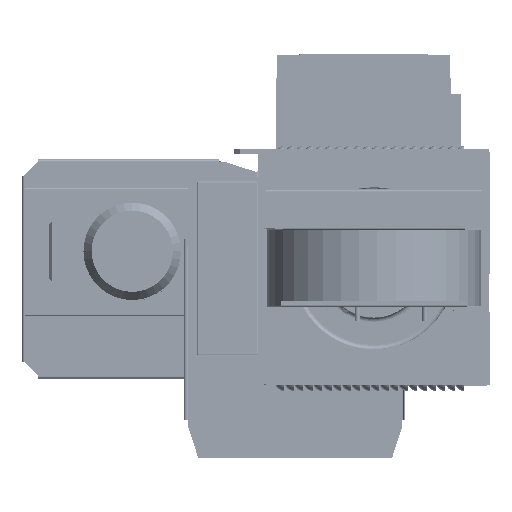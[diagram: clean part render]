
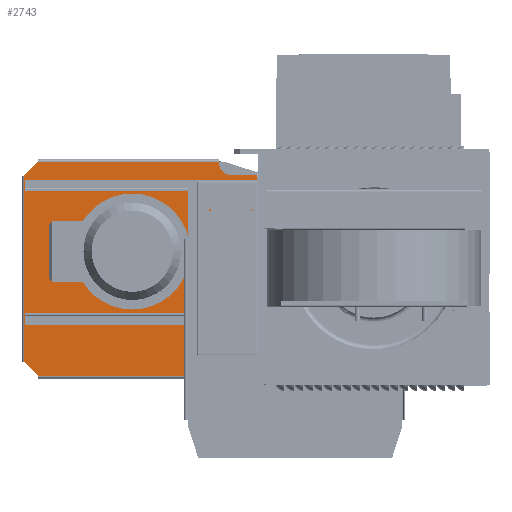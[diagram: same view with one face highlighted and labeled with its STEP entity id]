
A CAD part, top view. The second image highlights one B-rep face of the part: STEP entity #2743.
In plain terms, the highlighted planar face has unit normal (0, 0, 1).
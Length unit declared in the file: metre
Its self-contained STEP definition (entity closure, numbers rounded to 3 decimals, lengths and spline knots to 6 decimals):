
#2743 = ADVANCED_FACE( '', ( #5080, #5081, #5082, #5083, #5084, #5085 ), #5086, .F. );
#5080 = FACE_BOUND( '', #9238, .T. );
#5081 = FACE_BOUND( '', #9239, .T. );
#5082 = FACE_BOUND( '', #9240, .T. );
#5083 = FACE_BOUND( '', #9241, .T. );
#5084 = FACE_BOUND( '', #9242, .T. );
#5085 = FACE_OUTER_BOUND( '', #9243, .T. );
#5086 = PLANE( '', #9244 );
#9238 = EDGE_LOOP( '', ( #15480 ) );
#9239 = EDGE_LOOP( '', ( #15481 ) );
#9240 = EDGE_LOOP( '', ( #15482 ) );
#9241 = EDGE_LOOP( '', ( #15483 ) );
#9242 = EDGE_LOOP( '', ( #15484 ) );
#9243 = EDGE_LOOP( '', ( #15485, #15486, #15487, #15488, #15489, #15490, #15491, #15492, #15493, #15494, #15495, #15496 ) );
#9244 = AXIS2_PLACEMENT_3D( '', #15497, #15498, #15499 );
#15480 = ORIENTED_EDGE( '', *, *, #25044, .F. );
#15481 = ORIENTED_EDGE( '', *, *, #25045, .T. );
#15482 = ORIENTED_EDGE( '', *, *, #25046, .T. );
#15483 = ORIENTED_EDGE( '', *, *, #25047, .F. );
#15484 = ORIENTED_EDGE( '', *, *, #25048, .F. );
#15485 = ORIENTED_EDGE( '', *, *, #25049, .T. );
#15486 = ORIENTED_EDGE( '', *, *, #25050, .T. );
#15487 = ORIENTED_EDGE( '', *, *, #25051, .T. );
#15488 = ORIENTED_EDGE( '', *, *, #25052, .T. );
#15489 = ORIENTED_EDGE( '', *, *, #25053, .T. );
#15490 = ORIENTED_EDGE( '', *, *, #25054, .T. );
#15491 = ORIENTED_EDGE( '', *, *, #25055, .T. );
#15492 = ORIENTED_EDGE( '', *, *, #25056, .T. );
#15493 = ORIENTED_EDGE( '', *, *, #25057, .T. );
#15494 = ORIENTED_EDGE( '', *, *, #25058, .T. );
#15495 = ORIENTED_EDGE( '', *, *, #25059, .T. );
#15496 = ORIENTED_EDGE( '', *, *, #25060, .T. );
#15497 = CARTESIAN_POINT( '', ( -0.417025, 0.074178, 0.002 ) );
#15498 = DIRECTION( '', ( 0., 0., -1. ) );
#15499 = DIRECTION( '', ( -1., 0., 0. ) );
#25044 = EDGE_CURVE( '', #29506, #29506, #29507, .F. );
#25045 = EDGE_CURVE( '', #29508, #29508, #29509, .T. );
#25046 = EDGE_CURVE( '', #29510, #29510, #29511, .T. );
#25047 = EDGE_CURVE( '', #29512, #29512, #29513, .F. );
#25048 = EDGE_CURVE( '', #29514, #29514, #29515, .F. );
#25049 = EDGE_CURVE( '', #29516, #29517, #29518, .T. );
#25050 = EDGE_CURVE( '', #29517, #29519, #29520, .T. );
#25051 = EDGE_CURVE( '', #29519, #29521, #29522, .T. );
#25052 = EDGE_CURVE( '', #29521, #29523, #29524, .T. );
#25053 = EDGE_CURVE( '', #29523, #29525, #29526, .T. );
#25054 = EDGE_CURVE( '', #29525, #29527, #29528, .T. );
#25055 = EDGE_CURVE( '', #29527, #29529, #29530, .T. );
#25056 = EDGE_CURVE( '', #29529, #29531, #29532, .T. );
#25057 = EDGE_CURVE( '', #29531, #29533, #29534, .T. );
#25058 = EDGE_CURVE( '', #29533, #29535, #29536, .T. );
#25059 = EDGE_CURVE( '', #29535, #29537, #29538, .T. );
#25060 = EDGE_CURVE( '', #29537, #29516, #29539, .T. );
#29506 = VERTEX_POINT( '', #36065 );
#29507 = CIRCLE( '', #36066, 0.005 );
#29508 = VERTEX_POINT( '', #36067 );
#29509 = CIRCLE( '', #36068, 0.005 );
#29510 = VERTEX_POINT( '', #36069 );
#29511 = CIRCLE( '', #36070, 0.06525 );
#29512 = VERTEX_POINT( '', #36071 );
#29513 = CIRCLE( '', #36072, 0.005 );
#29514 = VERTEX_POINT( '', #36073 );
#29515 = CIRCLE( '', #36074, 0.005 );
#29516 = VERTEX_POINT( '', #36075 );
#29517 = VERTEX_POINT( '', #36076 );
#29518 = LINE( '', #36077, #36078 );
#29519 = VERTEX_POINT( '', #36079 );
#29520 = CIRCLE( '', #36080, 0.02 );
#29521 = VERTEX_POINT( '', #36081 );
#29522 = LINE( '', #36082, #36083 );
#29523 = VERTEX_POINT( '', #36084 );
#29524 = LINE( '', #36085, #36086 );
#29525 = VERTEX_POINT( '', #36087 );
#29526 = LINE( '', #36088, #36089 );
#29527 = VERTEX_POINT( '', #36090 );
#29528 = LINE( '', #36091, #36092 );
#29529 = VERTEX_POINT( '', #36093 );
#29530 = LINE( '', #36094, #36095 );
#29531 = VERTEX_POINT( '', #36096 );
#29532 = LINE( '', #36097, #36098 );
#29533 = VERTEX_POINT( '', #36099 );
#29534 = LINE( '', #36100, #36101 );
#29535 = VERTEX_POINT( '', #36102 );
#29536 = CIRCLE( '', #36103, 0.02 );
#29537 = VERTEX_POINT( '', #36104 );
#29538 = LINE( '', #36105, #36106 );
#29539 = LINE( '', #36107, #36108 );
#36065 = CARTESIAN_POINT( '', ( -0.055643, -0.170158, 0.002 ) );
#36066 = AXIS2_PLACEMENT_3D( '', #46221, #46222, #46223 );
#36067 = CARTESIAN_POINT( '', ( -0.162315, -0.170158, 0.002 ) );
#36068 = AXIS2_PLACEMENT_3D( '', #46224, #46225, #46226 );
#36069 = CARTESIAN_POINT( '', ( -0.043729, -0.111822, 0.002 ) );
#36070 = AXIS2_PLACEMENT_3D( '', #46227, #46228, #46229 );
#36071 = CARTESIAN_POINT( '', ( -0.172315, -0.053486, 0.002 ) );
#36072 = AXIS2_PLACEMENT_3D( '', #46230, #46231, #46232 );
#36073 = CARTESIAN_POINT( '', ( -0.055643, -0.053486, 0.002 ) );
#36074 = AXIS2_PLACEMENT_3D( '', #46233, #46234, #46235 );
#36075 = CARTESIAN_POINT( '', ( 0.023021, -0.326822, 0.002 ) );
#36076 = CARTESIAN_POINT( '', ( 0.023021, -0.281822, 0.002 ) );
#36077 = CARTESIAN_POINT( '', ( 0.023021, -0.326822, 0.002 ) );
#36078 = VECTOR( '', #46236, 1. );
#36079 = CARTESIAN_POINT( '', ( 0.043021, -0.261822, 0.002 ) );
#36080 = AXIS2_PLACEMENT_3D( '', #46237, #46238, #46239 );
#36081 = CARTESIAN_POINT( '', ( 0.046021, -0.261822, 0.002 ) );
#36082 = CARTESIAN_POINT( '', ( 0.023021, -0.261822, 0.002 ) );
#36083 = VECTOR( '', #46240, 1. );
#36084 = CARTESIAN_POINT( '', ( 0.046021, 0.050178, 0.002 ) );
#36085 = CARTESIAN_POINT( '', ( 0.046021, -0.261822, 0.002 ) );
#36086 = VECTOR( '', #46241, 1. );
#36087 = CARTESIAN_POINT( '', ( 0.022021, 0.074178, 0.002 ) );
#36088 = CARTESIAN_POINT( '', ( 0.046021, 0.050178, 0.002 ) );
#36089 = VECTOR( '', #46242, 1. );
#36090 = CARTESIAN_POINT( '', ( -0.299979, 0.074178, 0.002 ) );
#36091 = CARTESIAN_POINT( '', ( 0.022021, 0.074178, 0.002 ) );
#36092 = VECTOR( '', #46243, 1. );
#36093 = CARTESIAN_POINT( '', ( -0.323979, 0.050178, 0.002 ) );
#36094 = CARTESIAN_POINT( '', ( -0.299979, 0.074178, 0.002 ) );
#36095 = VECTOR( '', #46244, 1. );
#36096 = CARTESIAN_POINT( '', ( -0.323979, -0.261822, 0.002 ) );
#36097 = CARTESIAN_POINT( '', ( -0.323979, 0.050178, 0.002 ) );
#36098 = VECTOR( '', #46245, 1. );
#36099 = CARTESIAN_POINT( '', ( -0.320979, -0.261822, 0.002 ) );
#36100 = CARTESIAN_POINT( '', ( -0.3583, -0.261822, 0.002 ) );
#36101 = VECTOR( '', #46246, 1. );
#36102 = CARTESIAN_POINT( '', ( -0.300979, -0.281822, 0.002 ) );
#36103 = AXIS2_PLACEMENT_3D( '', #46247, #46248, #46249 );
#36104 = CARTESIAN_POINT( '', ( -0.300979, -0.326822, 0.002 ) );
#36105 = CARTESIAN_POINT( '', ( -0.300979, -0.261822, 0.002 ) );
#36106 = VECTOR( '', #46250, 1. );
#36107 = CARTESIAN_POINT( '', ( -0.305979, -0.326822, 0.002 ) );
#36108 = VECTOR( '', #46251, 1. );
#46221 = CARTESIAN_POINT( '', ( -0.050643, -0.170158, 0.002 ) );
#46222 = DIRECTION( '', ( 0., 0., -1. ) );
#46223 = DIRECTION( '', ( -1., 0., 0. ) );
#46224 = CARTESIAN_POINT( '', ( -0.167315, -0.170158, 0.002 ) );
#46225 = DIRECTION( '', ( 0., 0., -1. ) );
#46226 = DIRECTION( '', ( 1., 0., 0. ) );
#46227 = CARTESIAN_POINT( '', ( -0.108979, -0.111822, 0.002 ) );
#46228 = DIRECTION( '', ( 0., 0., -1. ) );
#46229 = DIRECTION( '', ( 1., 0., 0. ) );
#46230 = CARTESIAN_POINT( '', ( -0.167315, -0.053486, 0.002 ) );
#46231 = DIRECTION( '', ( 0., 0., -1. ) );
#46232 = DIRECTION( '', ( -1., 0., 0. ) );
#46233 = CARTESIAN_POINT( '', ( -0.050643, -0.053486, 0.002 ) );
#46234 = DIRECTION( '', ( 0., 0., -1. ) );
#46235 = DIRECTION( '', ( -1., 0., 0. ) );
#46236 = DIRECTION( '', ( 0., 1., 0. ) );
#46237 = CARTESIAN_POINT( '', ( 0.043021, -0.281822, 0.002 ) );
#46238 = DIRECTION( '', ( 0., 0., -1. ) );
#46239 = DIRECTION( '', ( -1., 0., 0. ) );
#46240 = DIRECTION( '', ( 1., 0., 0. ) );
#46241 = DIRECTION( '', ( 0., 1., 0. ) );
#46242 = DIRECTION( '', ( -0.707, 0.707, 0. ) );
#46243 = DIRECTION( '', ( -1., 0., 0. ) );
#46244 = DIRECTION( '', ( -0.707, -0.707, 0. ) );
#46245 = DIRECTION( '', ( 0., -1., 0. ) );
#46246 = DIRECTION( '', ( 1., 0., 0. ) );
#46247 = CARTESIAN_POINT( '', ( -0.320979, -0.281822, 0.002 ) );
#46248 = DIRECTION( '', ( 0., 0., -1. ) );
#46249 = DIRECTION( '', ( -1., 0., 0. ) );
#46250 = DIRECTION( '', ( 0., -1., 0. ) );
#46251 = DIRECTION( '', ( 1., 0., 0. ) );
